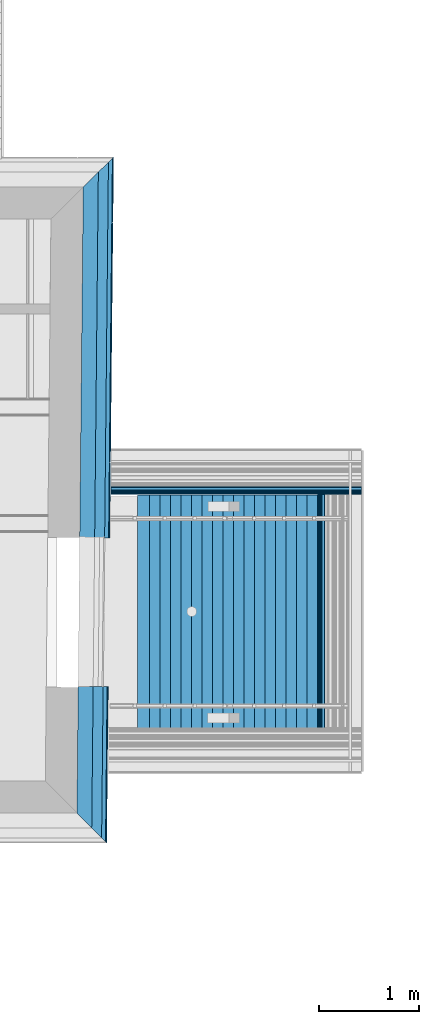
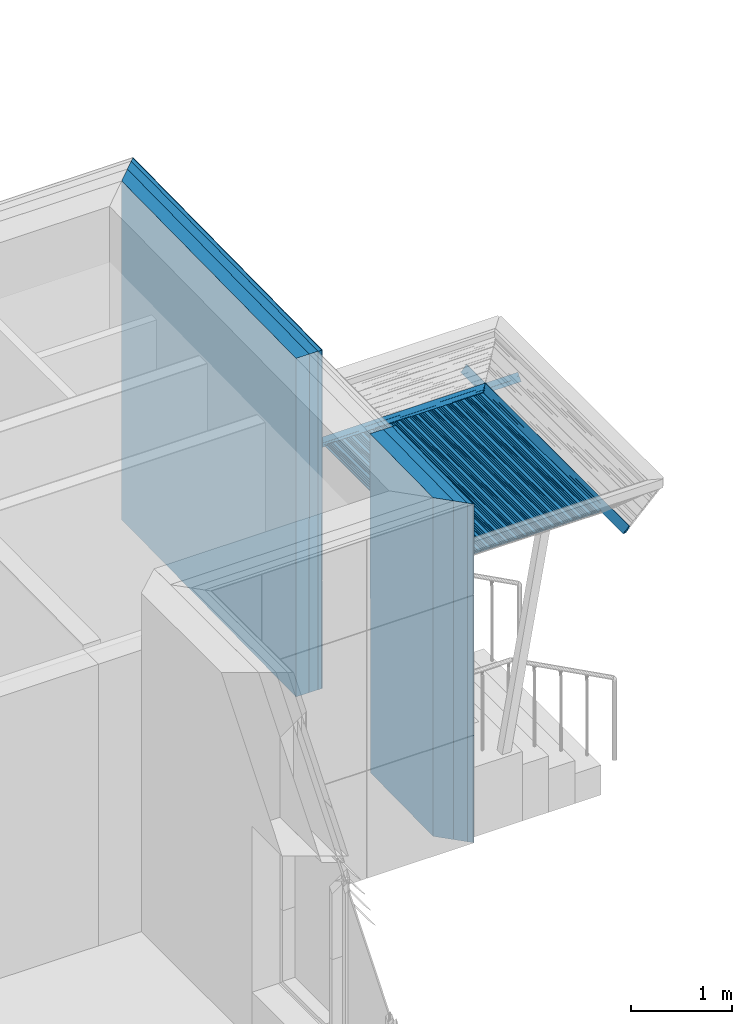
# One storey, part 56 of 418: 23 building element parts, 8 openings, 4 elements without a shape of their own.
"""IFC2X3 building model written with IfcOpenShell, lengths in millimetres."""

from ifc_helpers import new_model, entity, si_unit, converted_unit, derived_unit, money_unit, direction, frame, origin_with_axes, origin_2d_with_axis, place, context, subcontext, project, spatial, polyline, rectangle, outline, extrude, material, type_object, element, aggregate, save


model = new_model("IFC2X3")

# Units and contexts
model_context = context("Model", 3, precision=0.01, world=origin_with_axes(), true_north=direction((0.0, 1.0)))
body_context = subcontext(model_context, "Body", "Model", "MODEL_VIEW")
ifc_project = project(units=[si_unit("LENGTHUNIT", "METRE", prefix="MILLI"), si_unit("AREAUNIT", "SQUARE_METRE"), si_unit("VOLUMEUNIT", "CUBIC_METRE"), converted_unit("PLANEANGLEUNIT", "DEGREE", entity("IfcPlaneAngleMeasure", 0.0174532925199), si_unit("PLANEANGLEUNIT", "RADIAN"), dimensions=[0, 0, 0, 0, 0, 0, 0]), si_unit("SOLIDANGLEUNIT", "STERADIAN"), money_unit("EUR"), converted_unit("TIMEUNIT", "Year", entity("IfcTimeMeasure", 31556926.0), si_unit("TIMEUNIT", "SECOND"), dimensions=[0, 0, 1, 0, 0, 0, 0]), si_unit("MASSUNIT", "GRAM", prefix="KILO"), si_unit("THERMODYNAMICTEMPERATUREUNIT", "DEGREE_CELSIUS"), si_unit("LUMINOUSINTENSITYUNIT", "LUMEN"), si_unit("ENERGYUNIT", "JOULE", prefix="MEGA"), derived_unit("THERMALCONDUCTANCEUNIT", [(si_unit("POWERUNIT", "WATT"), 1), (si_unit("LENGTHUNIT", "METRE"), -1), (si_unit("THERMODYNAMICTEMPERATUREUNIT", "KELVIN"), -1)]), derived_unit("SPECIFICHEATCAPACITYUNIT", [(si_unit("ENERGYUNIT", "JOULE"), 1), (si_unit("MASSUNIT", "GRAM", prefix="KILO"), -1), (si_unit("THERMODYNAMICTEMPERATUREUNIT", "KELVIN"), -1)]), derived_unit("MASSDENSITYUNIT", [(si_unit("MASSUNIT", "GRAM", prefix="KILO"), 1), (si_unit("VOLUMEUNIT", "CUBIC_METRE"), -1)])], contexts=[model_context])

# Site, building, storey
site_placement = place(None, origin_with_axes())
site = spatial("IfcSite", under=ifc_project, at=site_placement, Name="Paldiski mnt 245/1, Tallinn, Harjumaa", CompositionType="COMPLEX")
building_placement = place(site_placement, origin_with_axes())
building = spatial("IfcBuilding", under=site, at=building_placement, Name="RKAS Hoone üldnimetus (kasutust iseloomustav) -> IFC Project Manager -> SOLIBRI", CompositionType="ELEMENT")
storey_placement = place(building_placement, origin_with_axes())
storey = spatial("IfcBuildingStorey", under=building, at=storey_placement, Name="Esimene korrus", CompositionType="ELEMENT", Elevation=0.0)

# Wall, openings, building element parts
wall_type = type_object("IfcWallType", Name="VS-03C_uued_kihid 300", PredefinedType="NOTDEFINED")
wall_placement = place(storey_placement, frame((-47068.6681644, 29819.8287244, 0.0), z_axis=(0.0, 0.0, 1.0), x_axis=(0.0100813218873, 0.999949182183, 0.0)))
wall = element("IfcWall", 1, at=wall_placement, inside=storey, type_object=wall_type, Name="VS-03")
opening_1_placement = place(wall_placement, frame((5916.12451231, 0.0, 0.0), z_axis=(0.0, 0.0, 1.0), x_axis=(1.0, 0.0, 0.0)))
element("IfcOpeningElement", 2, at=opening_1_placement, cuts=wall, Name="Cembrit fassaadiplaadi vuuk", context=body_context, shape_type="SweptSolid", body=[
    extrude(outline(polyline([(-3.99999999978, 0.0), (4.00000000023, 0.0), (4.00000000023, 4090.0), (-3.99999999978, 4090.0), (-3.99999999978, 0.0)])), frame((2.13162820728e-10, -292.0, 0.0), z_axis=(0.0, 1.0, 0.0), x_axis=(-1.0, 0.0, 0.0)), (0.0, 0.0, -1.0), 308.0),
])
opening_2_placement = place(wall_placement, frame((4716.06352783, 0.0, 0.0), z_axis=(0.0, 0.0, 1.0), x_axis=(1.0, 0.0, 0.0)))
element("IfcOpeningElement", 3, at=opening_2_placement, cuts=wall, Name="Cembrit fassaadiplaadi vuuk", context=body_context, shape_type="SweptSolid", body=[
    extrude(outline(polyline([(-3.99999999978, 0.0), (4.00000000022, 0.0), (4.00000000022, 4090.0), (-3.99999999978, 4090.0), (-3.99999999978, 0.0)])), frame((2.13162820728e-10, -292.0, 0.0), z_axis=(0.0, 1.0, 0.0), x_axis=(-1.0, 0.0, 0.0)), (0.0, 0.0, -1.0), 308.0),
])
opening_3_placement = place(wall_placement, frame((3516.00254335, 0.0, 0.0), z_axis=(0.0, 0.0, 1.0), x_axis=(1.0, 0.0, 0.0)))
element("IfcOpeningElement", 4, at=opening_3_placement, cuts=wall, Name="Cembrit fassaadiplaadi vuuk", context=body_context, shape_type="SweptSolid", body=[
    extrude(outline(polyline([(-3.99999999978, 0.0), (4.00000000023, 0.0), (4.00000000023, 4090.0), (-3.99999999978, 4090.0), (-3.99999999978, 0.0)])), frame((2.13162820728e-10, -292.0, 0.0), z_axis=(0.0, 1.0, 0.0), x_axis=(-1.0, 0.0, 0.0)), (0.0, 0.0, -1.0), 308.0),
])
opening_4_placement = place(wall_placement, frame((513.517764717, 0.0, 0.0), z_axis=(0.0, 0.0, 1.0), x_axis=(1.0, 0.0, 0.0)))
element("IfcOpeningElement", 5, at=opening_4_placement, cuts=wall, Name="Cembrit fassaadiplaadi vuuk", context=body_context, shape_type="SweptSolid", body=[
    extrude(outline(polyline([(-3.99999999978, 0.0), (4.00000000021, 0.0), (4.00000000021, 4090.0), (-3.99999999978, 4090.0), (-3.99999999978, 0.0)])), frame((2.13162820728e-10, -292.0, 0.0), z_axis=(0.0, 1.0, 0.0), x_axis=(-1.0, 0.0, 0.0)), (0.0, 0.0, -1.0), 308.0),
])
opening_5_placement = place(wall_placement, frame((3139.79696569, 0.0, 1298.0), z_axis=(0.0, 0.0, 1.0), x_axis=(1.0, 0.0, 0.0)))
element("IfcOpeningElement", 6, at=opening_5_placement, cuts=wall, Name="Cembrit fassaadiplaadi vuuk", context=body_context, shape_type="SweptSolid", body=[
    extrude(outline(polyline([(-3433.5614746, 0.0), (3433.5614746, 0.0), (3433.5614746, 8.0), (-3433.5614746, 8.0), (-3433.5614746, 0.0)])), frame((0.0, -292.0, 0.0), z_axis=(0.0, 1.0, 0.0), x_axis=(-1.0, 0.0, 0.0)), (0.0, 0.0, -1.0), 308.0),
])
opening_6_placement = place(wall_placement, frame((3139.79696569, 0.0, 2990.0), z_axis=(0.0, 0.0, 1.0), x_axis=(1.0, 0.0, 0.0)))
element("IfcOpeningElement", 7, at=opening_6_placement, cuts=wall, Name="Cembrit fassaadiplaadi vuuk", context=body_context, shape_type="SweptSolid", body=[
    extrude(outline(polyline([(-3433.5614746, 0.0), (3433.5614746, 0.0), (3433.5614746, 8.0), (-3433.5614746, 8.0), (-3433.5614746, 0.0)])), frame((0.0, -292.0, 0.0), z_axis=(0.0, 1.0, 0.0), x_axis=(-1.0, 0.0, 0.0)), (0.0, 0.0, -1.0), 308.0),
])
opening_7_placement = place(wall_placement, frame((2010.54035859, 0.0, 0.0), z_axis=(0.0, 0.0, 1.0), x_axis=(1.0, 0.0, 0.0)))
element("IfcOpeningElement", 8, at=opening_7_placement, cuts=wall, Name="VU-04p", context=body_context, shape_type="SweptSolid", body=[
    extrude(rectangle(XDim=1500.0, YDim=2100.0, at=origin_2d_with_axis()), frame((0.0, -300.0, 1050.0), z_axis=(0.0, -1.0, 0.0), x_axis=(1.0, 0.0, 0.0)), (0.0, 0.0, -1.0), 900.0),
])
opening_8_placement = place(wall_placement, frame((-29343.7989512, -47366.8995295, 0.0), z_axis=(0.0, 0.0, 1.0), x_axis=(0.0100813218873, -0.999949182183, 0.0)))
element("IfcOpeningElement", 9, at=opening_8_placement, cuts=wall, Name="AVA", ObjectType="OPENING", context=body_context, shape_type="SweptSolid", body=[
    extrude(rectangle(XDim=1490.0, YDim=4090.0, at=origin_2d_with_axis()), frame((-47048.3797539, 31832.2016801, 2045.0), z_axis=(0.999949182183, -0.0100813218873, 0.0), x_axis=(0.0100813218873, 0.999949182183, 0.0)), (0.0, 0.0, 1.0), 713.654151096),
])
ifc_material_1 = material(Name="Cembrit_C040")
building_element_part_1_placement = place(wall_placement, origin_with_axes())
building_element_part_1 = element("IfcBuildingElementPart", 10, at=building_element_part_1_placement, material=ifc_material_1, Name="Cembrit_C040", context=body_context, shape_type="SweptSolid", body=[
    extrude(outline(polyline([(-296.990695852, -300.0), (6573.35844029, -300.0), (6565.27737905, -292.0), (-289.070943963, -292.0), (-296.990695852, -300.0)])), origin_with_axes(), (0.0, 0.0, 1.0), 4090.0),
])
ifc_material_2 = material(Name="VKR-06_Õhkvahe")
building_element_part_2_placement = place(wall_placement, origin_with_axes())
building_element_part_2 = element("IfcBuildingElementPart", 11, at=building_element_part_2_placement, material=ifc_material_2, Name="VKR-06_Õhkvahe", context=body_context, shape_type="SweptSolid", body=[
    extrude(outline(polyline([(-289.070943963, -292.0), (6565.27737905, -292.0), (6522.85180756, -250.0), (-247.492246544, -250.0), (-289.070943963, -292.0)])), origin_with_axes(), (0.0, 0.0, 1.0), 4090.0),
])
ifc_material_3 = material(Name="Kingspan Kooltherm")
building_element_part_3_placement = place(wall_placement, origin_with_axes())
building_element_part_3 = element("IfcBuildingElementPart", 12, at=building_element_part_3_placement, material=ifc_material_3, Name="Kingspan Kooltherm", context=body_context, shape_type="SweptSolid", body=[
    extrude(outline(polyline([(-247.492246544, -250.0), (6522.85180756, -250.0), (6421.8385421, -150.0), (-148.495347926, -150.0), (-247.492246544, -250.0)])), origin_with_axes(), (0.0, 0.0, 1.0), 4090.0),
])
building_element_part_4_placement = place(wall_placement, origin_with_axes())
building_element_part_4 = element("IfcBuildingElementPart", 13, at=building_element_part_4_placement, material=ifc_material_3, Name="Kingspan Kooltherm", context=body_context, shape_type="SweptSolid", body=[
    extrude(outline(polyline([(-148.495347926, -150.0), (6421.8385421, -150.0), (6270.3186439, 0.0), (0.0, 0.0), (-148.495347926, -150.0)])), origin_with_axes(), (0.0, 0.0, 1.0), 4090.0),
])
aggregate(wall, [building_element_part_1, building_element_part_2, building_element_part_3, building_element_part_4])

# Proxy, building element part
building_element_proxy_type_1 = type_object("IfcBuildingElementProxyType", Name="Varikatus_01_02_03_raastas_01_02_03 463 x 518", PredefinedType="NOTDEFINED")
proxy_1_placement = place(storey_placement, frame((-46726.5941701, 33451.6821945, 3002.0), z_axis=(0.0, 0.0, 1.0), x_axis=(1.0, 0.0, 0.0)))
proxy_1 = element("IfcBuildingElementProxy", 14, at=proxy_1_placement, inside=storey, type_object=building_element_proxy_type_1, Name="Varikatus")
ifc_material_4 = material(Name="Laudis 5072 Honka 45 horisontaalne raastas")
building_element_part_5_placement = place(proxy_1_placement, origin_with_axes())
building_element_part_5 = element("IfcBuildingElementPart", 15, at=building_element_part_5_placement, material=ifc_material_4, Name="Laudis 5072 Honka 45 horisontaalne raastas", context=body_context, shape_type="SweptSolid", body=[
    extrude(outline(polyline([(371.422956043, -371.4230605), (363.998334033, -378.84767996), (378.140468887, -392.989818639), (370.715845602, -400.414438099), (412.435143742, -442.133747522), (442.133623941, -442.133747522), (431.826706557, -431.826826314), (426.876957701, -436.776571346), (422.888402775, -432.78801642), (427.838150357, -427.838270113), (417.352823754, -417.35294096), (412.403076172, -422.302687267), (408.070675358, -417.970285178), (413.02042294, -413.020540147), (402.456873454, -402.456986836), (397.507125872, -407.406731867), (393.00816134, -402.907767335), (397.957910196, -397.958019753), (371.422956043, -371.4230605)])), frame((0.0, 0.0, 0.0), z_axis=(-1.0, 0.0, 0.0), x_axis=(0.0, -1.0, 0.0)), (0.0, 0.0, -1.0), 2508.95322517),
])
aggregate(proxy_1, [building_element_part_5])

# Proxy, building element parts
building_element_proxy_type_2 = type_object("IfcBuildingElementProxyType", Name="Varikatus_02_03_lagi laudis_02_03 1800 x 21", PredefinedType="NOTDEFINED")
proxy_2_placement = place(storey_placement, frame((-44659.7745692, 33006.6821945, 2580.99999904), z_axis=(0.0, 0.0, 1.0), x_axis=(0.0, -1.0, 0.0)))
proxy_2 = element("IfcBuildingElementProxy", 16, at=proxy_2_placement, inside=storey, type_object=building_element_proxy_type_2, Name="Varikatus")
building_element_part_6_placement = place(proxy_2_placement, origin_with_axes())
building_element_part_6 = element("IfcBuildingElementPart", 17, at=building_element_part_6_placement, material=ifc_material_4, Name="Laudis 5072 Honka 45 horisontaalne raastas", context=body_context, shape_type="SweptSolid", body=[
    extrude(outline(polyline([(20.0000000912, -20.9999999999), (119.99999978, -20.9999999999), (120.000000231, -11.0000004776), (100.00000065, -10.999999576), (99.9999996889, 1.61838542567e-07), (85.4238126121, 5.2358295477e-07), (85.4238123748, -6.99999898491), (79.7831439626, -6.9999996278), (79.7831429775, 8.83371598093e-07), (64.9546506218, -3.56328300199e-08), (64.9546503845, -6.99999954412), (58.8277097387, -6.99999997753), (58.8277099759, -4.69029259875e-07), (43.8885928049, -3.47782691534e-07), (43.8885925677, -6.99999985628), (37.5260955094, -6.99999955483), (37.5260945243, 9.56347889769e-07), (0.0, 0.0), (-3.55868667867e-07, -10.4999992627), (20.0000002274, -10.499998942), (20.0000000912, -20.9999999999)])), frame((0.0, 0.0, 0.0), z_axis=(-1.0, 0.0, 0.0), x_axis=(0.0, -1.0, 0.0)), (0.0, 0.0, -1.0), 2338.89132935),
])
building_element_part_7_placement = place(proxy_2_placement, origin_with_axes())
building_element_part_7 = element("IfcBuildingElementPart", 18, at=building_element_part_7_placement, material=ifc_material_4, Name="Laudis 5072 Honka 45 horisontaalne raastas", context=body_context, shape_type="SweptSolid", body=[
    extrude(outline(polyline([(125.135728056, -20.9999999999), (225.135727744, -20.9999999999), (225.135728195, -11.0000004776), (205.135728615, -10.999999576), (205.135727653, 1.61839430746e-07), (190.559540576, 5.23583842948e-07), (190.559540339, -6.99999898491), (184.918871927, -6.9999996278), (184.918870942, 8.83374262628e-07), (170.090378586, -3.56301654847e-08), (170.090378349, -6.99999954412), (163.963437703, -6.99999997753), (163.96343794, -4.69028371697e-07), (149.024320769, -3.47782247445e-07), (149.024320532, -6.99999985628), (142.661823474, -6.99999955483), (142.661822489, 9.56348777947e-07), (105.135727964, 0.0), (105.135727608, -10.4999992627), (125.135728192, -10.499998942), (125.135728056, -20.9999999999)])), frame((0.0, 0.0, 0.0), z_axis=(-1.0, 0.0, 0.0), x_axis=(0.0, -1.0, 0.0)), (0.0, 0.0, -1.0), 2338.89132935),
])
building_element_part_8_placement = place(proxy_2_placement, origin_with_axes())
building_element_part_8 = element("IfcBuildingElementPart", 19, at=building_element_part_8_placement, material=ifc_material_4, Name="Laudis 5072 Honka 45 horisontaalne raastas", context=body_context, shape_type="SweptSolid", body=[
    extrude(outline(polyline([(230.27145602, -20.9999999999), (330.271455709, -20.9999999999), (330.27145616, -11.0000004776), (310.271456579, -10.999999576), (310.271455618, 1.61839874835e-07), (295.695268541, 5.23584731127e-07), (295.695268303, -6.99999898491), (290.054599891, -6.9999996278), (290.054598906, 8.83375150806e-07), (275.22610655, -3.56292773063e-08), (275.226106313, -6.99999954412), (269.099165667, -6.99999997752), (269.099165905, -4.69027927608e-07), (254.160048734, -3.47781359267e-07), (254.160048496, -6.99999985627), (247.797551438, -6.99999955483), (247.797550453, 9.56348777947e-07), (210.271455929, 0.0), (210.271455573, -10.4999992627), (230.271456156, -10.499998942), (230.27145602, -20.9999999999)])), frame((0.0, 0.0, 0.0), z_axis=(-1.0, 0.0, 0.0), x_axis=(0.0, -1.0, 0.0)), (0.0, 0.0, -1.0), 2338.89132935),
])
building_element_part_9_placement = place(proxy_2_placement, origin_with_axes())
building_element_part_9 = element("IfcBuildingElementPart", 20, at=building_element_part_9_placement, material=ifc_material_4, Name="Laudis 5072 Honka 45 horisontaalne raastas", context=body_context, shape_type="SweptSolid", body=[
    extrude(outline(polyline([(335.27145602, -20.9999999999), (435.271455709, -20.9999999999), (435.27145616, -11.0000004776), (415.271456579, -10.999999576), (415.271455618, 1.61842983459e-07), (400.695268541, 5.23587395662e-07), (400.695268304, -6.99999898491), (395.054599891, -6.9999996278), (395.054598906, 8.8337337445e-07), (380.22610655, -3.56310536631e-08), (380.226106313, -6.99999954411), (374.099165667, -6.99999997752), (374.099165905, -4.69027483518e-07), (359.160048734, -3.47778250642e-07), (359.160048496, -6.99999985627), (352.797551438, -6.99999955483), (352.797550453, 9.56352330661e-07), (315.271455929, 0.0), (315.271455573, -10.4999992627), (335.271456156, -10.499998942), (335.27145602, -20.9999999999)])), frame((0.0, 0.0, 0.0), z_axis=(-1.0, 0.0, 0.0), x_axis=(0.0, -1.0, 0.0)), (0.0, 0.0, -1.0), 2338.89132935),
])
building_element_part_10_placement = place(proxy_2_placement, origin_with_axes())
building_element_part_10 = element("IfcBuildingElementPart", 21, at=building_element_part_10_placement, material=ifc_material_4, Name="Laudis 5072 Honka 45 horisontaalne raastas", context=body_context, shape_type="SweptSolid", body=[
    extrude(outline(polyline([(440.27145602, -20.9999999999), (540.271455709, -20.9999999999), (540.27145616, -11.0000004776), (520.271456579, -10.999999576), (520.271455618, 1.61841207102e-07), (505.695268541, 5.23587839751e-07), (505.695268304, -6.99999898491), (500.054599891, -6.9999996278), (500.054598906, 8.83376927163e-07), (485.22610655, -3.56279450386e-08), (485.226106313, -6.99999954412), (479.099165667, -6.99999997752), (479.099165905, -4.69026151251e-07), (464.160048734, -3.47777806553e-07), (464.160048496, -6.99999985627), (457.797551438, -6.99999955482), (457.797550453, 9.56350110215e-07), (420.271455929, 0.0), (420.271455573, -10.4999992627), (440.271456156, -10.499998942), (440.27145602, -20.9999999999)])), frame((0.0, 0.0, 0.0), z_axis=(-1.0, 0.0, 0.0), x_axis=(0.0, -1.0, 0.0)), (0.0, 0.0, -1.0), 2338.89132935),
])
building_element_part_11_placement = place(proxy_2_placement, origin_with_axes())
building_element_part_11 = element("IfcBuildingElementPart", 22, at=building_element_part_11_placement, material=ifc_material_4, Name="Laudis 5072 Honka 45 horisontaalne raastas", context=body_context, shape_type="SweptSolid", body=[
    extrude(outline(polyline([(545.216857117, -20.9999999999), (645.216856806, -20.9999999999), (645.216857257, -11.0000004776), (625.216857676, -10.999999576), (625.216856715, 1.61841207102e-07), (610.640669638, 5.23587839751e-07), (610.640669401, -6.99999898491), (605.000000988, -6.9999996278), (605.000000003, 8.83376927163e-07), (590.171507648, -3.56279450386e-08), (590.17150741, -6.99999954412), (584.044566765, -6.99999997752), (584.044567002, -4.69026151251e-07), (569.105449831, -3.47777806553e-07), (569.105449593, -6.99999985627), (562.742952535, -6.99999955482), (562.74295155, 9.56350110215e-07), (525.216857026, 0.0), (525.21685667, -10.4999992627), (545.216857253, -10.499998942), (545.216857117, -20.9999999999)])), frame((0.0, 0.0, 0.0), z_axis=(-1.0, 0.0, 0.0), x_axis=(0.0, -1.0, 0.0)), (0.0, 0.0, -1.0), 2338.89132935),
])
building_element_part_12_placement = place(proxy_2_placement, origin_with_axes())
building_element_part_12 = element("IfcBuildingElementPart", 23, at=building_element_part_12_placement, material=ifc_material_4, Name="Laudis 5072 Honka 45 horisontaalne raastas", context=body_context, shape_type="SweptSolid", body=[
    extrude(outline(polyline([(650.162258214, -20.9999999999), (750.162257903, -20.9999999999), (750.162258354, -11.0000004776), (730.162258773, -10.999999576), (730.162257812, 1.61841207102e-07), (715.586070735, 5.23587839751e-07), (715.586070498, -6.99999898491), (709.945402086, -6.9999996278), (709.9454011, 8.83376927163e-07), (695.116908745, -3.56279450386e-08), (695.116908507, -6.99999954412), (688.989967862, -6.99999997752), (688.989968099, -4.69026151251e-07), (674.050850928, -3.47777806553e-07), (674.050850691, -6.99999985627), (667.688353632, -6.99999955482), (667.688352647, 9.56350110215e-07), (630.162258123, 0.0), (630.162257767, -10.4999992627), (650.16225835, -10.499998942), (650.162258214, -20.9999999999)])), frame((0.0, 0.0, 0.0), z_axis=(-1.0, 0.0, 0.0), x_axis=(0.0, -1.0, 0.0)), (0.0, 0.0, -1.0), 2338.89132935),
])
building_element_part_13_placement = place(proxy_2_placement, origin_with_axes())
building_element_part_13 = element("IfcBuildingElementPart", 24, at=building_element_part_13_placement, material=ifc_material_4, Name="Laudis 5072 Honka 45 horisontaalne raastas", context=body_context, shape_type="SweptSolid", body=[
    extrude(outline(polyline([(755.162258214, -20.9999999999), (855.162257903, -20.9999999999), (855.162258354, -11.0000004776), (835.162258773, -10.999999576), (835.162257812, 1.61842983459e-07), (820.586070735, 5.23587395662e-07), (820.586070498, -6.99999898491), (814.945402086, -6.9999996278), (814.9454011, 8.8337337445e-07), (800.116908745, -3.56310536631e-08), (800.116908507, -6.99999954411), (793.989967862, -6.99999997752), (793.989968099, -4.69027483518e-07), (779.050850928, -3.47778250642e-07), (779.050850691, -6.99999985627), (772.688353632, -6.99999955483), (772.688352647, 9.56352330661e-07), (735.162258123, 0.0), (735.162257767, -10.4999992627), (755.16225835, -10.499998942), (755.162258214, -20.9999999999)])), frame((0.0, 0.0, 0.0), z_axis=(-1.0, 0.0, 0.0), x_axis=(0.0, -1.0, 0.0)), (0.0, 0.0, -1.0), 2338.89132935),
])
building_element_part_14_placement = place(proxy_2_placement, origin_with_axes())
building_element_part_14 = element("IfcBuildingElementPart", 25, at=building_element_part_14_placement, material=ifc_material_4, Name="Laudis 5072 Honka 45 horisontaalne raastas", context=body_context, shape_type="SweptSolid", body=[
    extrude(outline(polyline([(860.162258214, -20.9999999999), (960.162257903, -20.9999999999), (960.162258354, -11.0000004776), (940.162258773, -10.999999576), (940.162257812, 1.61841207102e-07), (925.586070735, 5.23587839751e-07), (925.586070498, -6.99999898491), (919.945402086, -6.9999996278), (919.9454011, 8.83376927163e-07), (905.116908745, -3.56279450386e-08), (905.116908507, -6.99999954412), (898.989967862, -6.99999997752), (898.989968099, -4.69026151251e-07), (884.050850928, -3.47777806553e-07), (884.050850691, -6.99999985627), (877.688353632, -6.99999955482), (877.688352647, 9.56350110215e-07), (840.162258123, 0.0), (840.162257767, -10.4999992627), (860.16225835, -10.499998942), (860.162258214, -20.9999999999)])), frame((0.0, 0.0, 0.0), z_axis=(-1.0, 0.0, 0.0), x_axis=(0.0, -1.0, 0.0)), (0.0, 0.0, -1.0), 2338.89132935),
])
building_element_part_15_placement = place(proxy_2_placement, origin_with_axes())
building_element_part_15 = element("IfcBuildingElementPart", 26, at=building_element_part_15_placement, material=ifc_material_4, Name="Laudis 5072 Honka 45 horisontaalne raastas", context=body_context, shape_type="SweptSolid", body=[
    extrude(outline(polyline([(965.107659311, -20.9999999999), (1065.107659, -20.9999999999), (1065.10765945, -11.0000004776), (1045.10765987, -10.999999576), (1045.10765891, 1.61841207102e-07), (1030.53147183, 5.23587839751e-07), (1030.53147159, -6.99999898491), (1024.89080318, -6.9999996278), (1024.8908022, 8.83376927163e-07), (1010.06230984, -3.56279450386e-08), (1010.0623096, -6.99999954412), (1003.93536896, -6.99999997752), (1003.9353692, -4.69026151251e-07), (988.996252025, -3.47777806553e-07), (988.996251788, -6.99999985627), (982.633754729, -6.99999955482), (982.633753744, 9.56350110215e-07), (945.10765922, 0.0), (945.107658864, -10.4999992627), (965.107659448, -10.499998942), (965.107659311, -20.9999999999)])), frame((0.0, 0.0, 0.0), z_axis=(-1.0, 0.0, 0.0), x_axis=(0.0, -1.0, 0.0)), (0.0, 0.0, -1.0), 2338.89132935),
])
building_element_part_16_placement = place(proxy_2_placement, origin_with_axes())
building_element_part_16 = element("IfcBuildingElementPart", 27, at=building_element_part_16_placement, material=ifc_material_4, Name="Laudis 5072 Honka 45 horisontaalne raastas", context=body_context, shape_type="SweptSolid", body=[
    extrude(outline(polyline([(1070.05306041, -20.9999999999), (1170.0530601, -20.9999999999), (1170.05306055, -11.0000004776), (1150.05306097, -10.999999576), (1150.05306001, 1.61841207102e-07), (1135.47687293, 5.23587839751e-07), (1135.47687269, -6.99999898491), (1129.83620428, -6.9999996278), (1129.83620329, 8.83376927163e-07), (1115.00771094, -3.56279450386e-08), (1115.0077107, -6.99999954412), (1108.88077006, -6.99999997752), (1108.88077029, -4.69026151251e-07), (1093.94165312, -3.47777806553e-07), (1093.94165288, -6.99999985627), (1087.57915583, -6.99999955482), (1087.57915484, 9.56350110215e-07), (1050.05306032, 0.0), (1050.05305996, -10.4999992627), (1070.05306054, -10.499998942), (1070.05306041, -20.9999999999)])), frame((0.0, 0.0, 0.0), z_axis=(-1.0, 0.0, 0.0), x_axis=(0.0, -1.0, 0.0)), (0.0, 0.0, -1.0), 2338.89132935),
])
building_element_part_17_placement = place(proxy_2_placement, origin_with_axes())
building_element_part_17 = element("IfcBuildingElementPart", 28, at=building_element_part_17_placement, material=ifc_material_4, Name="Laudis 5072 Honka 45 horisontaalne raastas", context=body_context, shape_type="SweptSolid", body=[
    extrude(outline(polyline([(1174.99846151, -20.9999999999), (1274.99846119, -20.9999999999), (1274.99846165, -11.0000004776), (1254.99846206, -10.999999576), (1254.9984611, 1.61841207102e-07), (1240.42227403, 5.23587839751e-07), (1240.42227379, -6.99999898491), (1234.78160538, -6.9999996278), (1234.78160439, 8.83376927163e-07), (1219.95311204, -3.56279450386e-08), (1219.9531118, -6.99999954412), (1213.82617115, -6.99999997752), (1213.82617139, -4.69026151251e-07), (1198.88705422, -3.47777806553e-07), (1198.88705398, -6.99999985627), (1192.52455692, -6.99999955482), (1192.52455594, 9.56350110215e-07), (1154.99846141, 0.0), (1154.99846106, -10.4999992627), (1174.99846164, -10.499998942), (1174.99846151, -20.9999999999)])), frame((0.0, 0.0, 0.0), z_axis=(-1.0, 0.0, 0.0), x_axis=(0.0, -1.0, 0.0)), (0.0, 0.0, -1.0), 2338.89132935),
])
building_element_part_18_placement = place(proxy_2_placement, origin_with_axes())
building_element_part_18 = element("IfcBuildingElementPart", 29, at=building_element_part_18_placement, material=ifc_material_4, Name="Laudis 5072 Honka 45 horisontaalne raastas", context=body_context, shape_type="SweptSolid", body=[
    extrude(outline(polyline([(1279.9438626, -20.9999999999), (1379.94386229, -20.9999999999), (1379.94386274, -11.0000004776), (1359.94386316, -10.999999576), (1359.9438622, 1.61841207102e-07), (1345.36767512, 5.23587839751e-07), (1345.36767489, -6.99999898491), (1339.72700647, -6.9999996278), (1339.72700549, 8.83376927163e-07), (1324.89851313, -3.56279450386e-08), (1324.8985129, -6.99999954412), (1318.77157225, -6.99999997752), (1318.77157249, -4.69026151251e-07), (1303.83245532, -3.47777806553e-07), (1303.83245508, -6.99999985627), (1297.46995802, -6.99999955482), (1297.46995704, 9.56350110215e-07), (1259.94386251, 0.0), (1259.94386216, -10.4999992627), (1279.94386274, -10.499998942), (1279.9438626, -20.9999999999)])), frame((0.0, 0.0, 0.0), z_axis=(-1.0, 0.0, 0.0), x_axis=(0.0, -1.0, 0.0)), (0.0, 0.0, -1.0), 2338.89132935),
])
building_element_part_19_placement = place(proxy_2_placement, origin_with_axes())
building_element_part_19 = element("IfcBuildingElementPart", 30, at=building_element_part_19_placement, material=ifc_material_4, Name="Laudis 5072 Honka 45 horisontaalne raastas", context=body_context, shape_type="SweptSolid", body=[
    extrude(outline(polyline([(1384.9438626, -20.9999999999), (1484.94386229, -20.9999999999), (1484.94386274, -11.0000004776), (1464.94386316, -10.999999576), (1464.9438622, 1.61842983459e-07), (1450.36767512, 5.23587395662e-07), (1450.36767489, -6.99999898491), (1444.72700647, -6.9999996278), (1444.72700549, 8.8337337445e-07), (1429.89851313, -3.56310536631e-08), (1429.8985129, -6.99999954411), (1423.77157225, -6.99999997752), (1423.77157249, -4.69027483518e-07), (1408.83245532, -3.47778250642e-07), (1408.83245508, -6.99999985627), (1402.46995802, -6.99999955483), (1402.46995704, 9.56352330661e-07), (1364.94386251, 0.0), (1364.94386216, -10.4999992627), (1384.94386274, -10.499998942), (1384.9438626, -20.9999999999)])), frame((0.0, 0.0, 0.0), z_axis=(-1.0, 0.0, 0.0), x_axis=(0.0, -1.0, 0.0)), (0.0, 0.0, -1.0), 2338.89132935),
])
building_element_part_20_placement = place(proxy_2_placement, origin_with_axes())
building_element_part_20 = element("IfcBuildingElementPart", 31, at=building_element_part_20_placement, material=ifc_material_4, Name="Laudis 5072 Honka 45 horisontaalne raastas", context=body_context, shape_type="SweptSolid", body=[
    extrude(outline(polyline([(1489.9438626, -20.9999999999), (1589.94386229, -20.9999999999), (1589.94386274, -11.0000004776), (1569.94386316, -10.999999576), (1569.9438622, 1.61841207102e-07), (1555.36767512, 5.23587839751e-07), (1555.36767489, -6.99999898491), (1549.72700647, -6.9999996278), (1549.72700549, 8.83376927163e-07), (1534.89851313, -3.56279450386e-08), (1534.8985129, -6.99999954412), (1528.77157225, -6.99999997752), (1528.77157249, -4.69026151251e-07), (1513.83245532, -3.47777806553e-07), (1513.83245508, -6.99999985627), (1507.46995802, -6.99999955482), (1507.46995704, 9.56350110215e-07), (1469.94386251, 0.0), (1469.94386216, -10.4999992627), (1489.94386274, -10.499998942), (1489.9438626, -20.9999999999)])), frame((0.0, 0.0, 0.0), z_axis=(-1.0, 0.0, 0.0), x_axis=(0.0, -1.0, 0.0)), (0.0, 0.0, -1.0), 2338.89132935),
])
building_element_part_21_placement = place(proxy_2_placement, origin_with_axes())
building_element_part_21 = element("IfcBuildingElementPart", 32, at=building_element_part_21_placement, material=ifc_material_4, Name="Laudis 5072 Honka 45 horisontaalne raastas", context=body_context, shape_type="SweptSolid", body=[
    extrude(outline(polyline([(1594.9438626, -20.9999999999), (1694.94386229, -20.9999999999), (1694.94386274, -11.0000004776), (1674.94386316, -10.999999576), (1674.9438622, 1.61842983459e-07), (1660.36767512, 5.23587395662e-07), (1660.36767489, -6.99999898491), (1654.72700647, -6.9999996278), (1654.72700549, 8.8337337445e-07), (1639.89851313, -3.56310536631e-08), (1639.8985129, -6.99999954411), (1633.77157225, -6.99999997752), (1633.77157249, -4.69027483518e-07), (1618.83245532, -3.47778250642e-07), (1618.83245508, -6.99999985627), (1612.46995802, -6.99999955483), (1612.46995704, 9.56352330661e-07), (1574.94386251, 0.0), (1574.94386216, -10.4999992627), (1594.94386274, -10.499998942), (1594.9438626, -20.9999999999)])), frame((0.0, 0.0, 0.0), z_axis=(-1.0, 0.0, 0.0), x_axis=(0.0, -1.0, 0.0)), (0.0, 0.0, -1.0), 2338.89132935),
])
building_element_part_22_placement = place(proxy_2_placement, origin_with_axes())
building_element_part_22 = element("IfcBuildingElementPart", 33, at=building_element_part_22_placement, material=ifc_material_4, Name="Laudis 5072 Honka 45 horisontaalne raastas", context=body_context, shape_type="SweptSolid", body=[
    extrude(outline(polyline([(1699.9438626, -20.9999999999), (1799.94386229, -20.9999999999), (1799.94386274, -11.0000004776), (1779.94386316, -10.999999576), (1779.9438622, 1.61841207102e-07), (1765.36767512, 5.23587839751e-07), (1765.36767489, -6.99999898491), (1759.72700647, -6.9999996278), (1759.72700549, 8.83376927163e-07), (1744.89851313, -3.56279450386e-08), (1744.8985129, -6.99999954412), (1738.77157225, -6.99999997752), (1738.77157249, -4.69026151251e-07), (1723.83245532, -3.47777806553e-07), (1723.83245508, -6.99999985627), (1717.46995802, -6.99999955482), (1717.46995704, 9.56350110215e-07), (1679.94386251, 0.0), (1679.94386216, -10.4999992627), (1699.94386274, -10.499998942), (1699.9438626, -20.9999999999)])), frame((0.0, 0.0, 0.0), z_axis=(-1.0, 0.0, 0.0), x_axis=(0.0, -1.0, 0.0)), (0.0, 0.0, -1.0), 2338.89132935),
])
aggregate(proxy_2, [building_element_part_6, building_element_part_7, building_element_part_8, building_element_part_9, building_element_part_10, building_element_part_11, building_element_part_12, building_element_part_13, building_element_part_14, building_element_part_15, building_element_part_16, building_element_part_17, building_element_part_18, building_element_part_19, building_element_part_20, building_element_part_21, building_element_part_22])

# Proxy, building element part
proxy_3_placement = place(storey_placement, frame((-44217.6409449, 33451.6821945, 3002.0), z_axis=(0.0, 0.0, 1.0), x_axis=(0.0, -1.0, 0.0)))
proxy_3 = element("IfcBuildingElementProxy", 34, at=proxy_3_placement, inside=storey, type_object=building_element_proxy_type_1, Name="Varikatus")
building_element_part_23_placement = place(proxy_3_placement, origin_with_axes())
building_element_part_23 = element("IfcBuildingElementPart", 35, at=building_element_part_23_placement, material=ifc_material_4, Name="Laudis 5072 Honka 45 horisontaalne raastas", context=body_context, shape_type="SweptSolid", body=[
    extrude(outline(polyline([(371.422956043, -371.4230605), (363.998334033, -378.84767996), (378.140468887, -392.989818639), (370.715845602, -400.414438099), (412.435143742, -442.133747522), (442.133623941, -442.133747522), (431.826706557, -431.826826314), (426.876957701, -436.776571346), (422.888402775, -432.78801642), (427.838150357, -427.838270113), (417.352823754, -417.35294096), (412.403076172, -422.302687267), (408.070675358, -417.970285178), (413.02042294, -413.020540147), (402.456873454, -402.456986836), (397.507125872, -407.406731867), (393.00816134, -402.907767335), (397.957910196, -397.958019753), (371.422956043, -371.4230605)])), frame((0.0, 0.0, 0.0), z_axis=(-1.0, 0.0, 0.0), x_axis=(0.0, -1.0, 0.0)), (0.0, 0.0, -1.0), 3218.89132935),
])
aggregate(proxy_3, [building_element_part_23])

save(model, "model.ifc")
